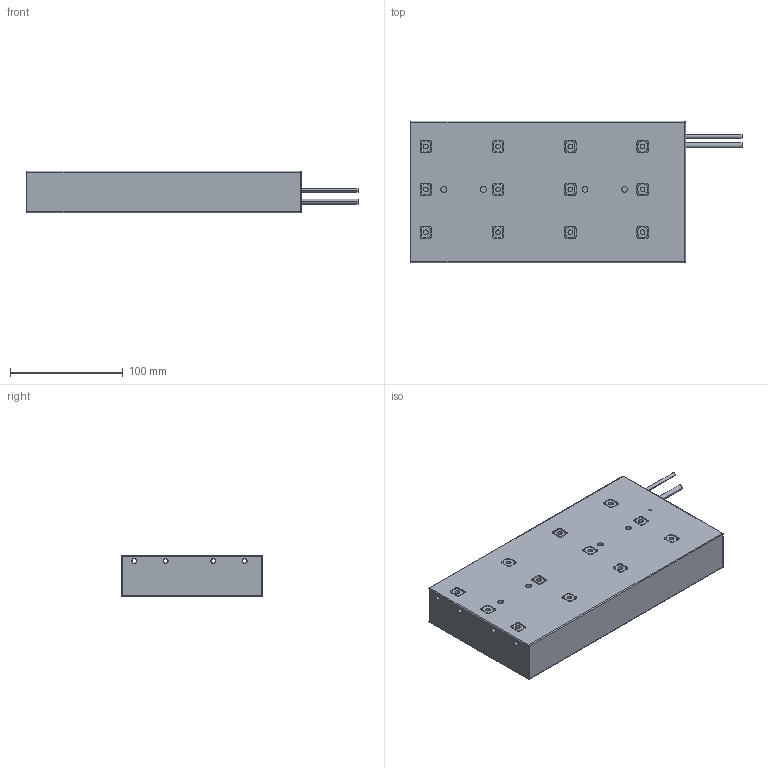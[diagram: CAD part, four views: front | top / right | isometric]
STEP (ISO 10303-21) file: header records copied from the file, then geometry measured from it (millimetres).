
FILE_DESCRIPTION (( 'STEP AP203' ), '1' );
FILE_NAME ('ICV124-12.STEP', '2024-07-23T07:21:46', ( '' ), ( '' ), 'SwSTEP 2.0', 'SolidWorks 2019', '' );
FILE_SCHEMA (( 'CONFIG_CONTROL_DESIGN' ));
Length unit declared in the file: millimetre
Products named in the file (7): IC76-恲諷橈埽璃; 錨璃17^IC124-12; ic124-12臏褲; 錨璃5^IC124-12; IC124; ICV124-12; IC76-萇擢橈埽璃
Assembly tree (9 placements, depth 2):
  ICV124-12
    ic124-12臏褲
    IC124  x4
    IC76-恲諷橈埽璃
    IC76-萇擢橈埽璃
    錨璃5^IC124-12
    錨璃17^IC124-12
Bounding box: 294 x 125.5 x 37 mm (x, y, z)
Volume: 1188786.7 mm3; surface area: 220743.7 mm2
Topology: 10 solids, 10 shells, 591 faces, 1625 edges, 1054 vertices
Faces by surface type: cylinder 283, plane 280, cone 16, sphere 8, torus 4
Entity records: 13264 total; most frequent: CARTESIAN_POINT 2255, DIRECTION 2227, ORIENTED_EDGE 2118, EDGE_CURVE 1059, AXIS2_PLACEMENT_3D 794, VERTEX_POINT 682, VECTOR 639, LINE 639
